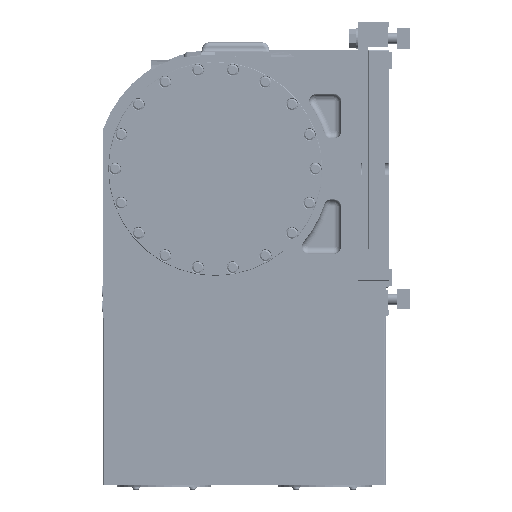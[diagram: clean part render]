
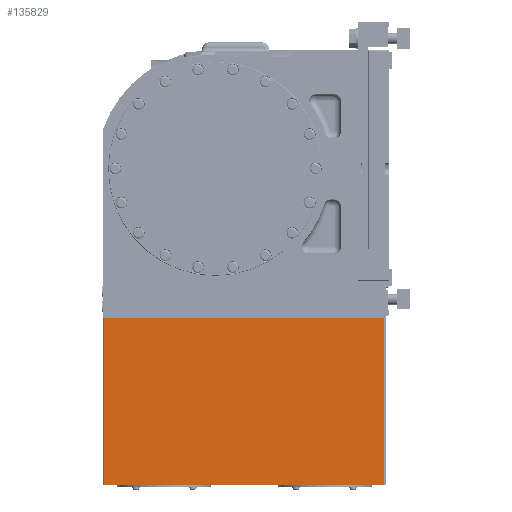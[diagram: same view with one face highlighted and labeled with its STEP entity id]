
A CAD part, left-side view. The second image highlights one B-rep face of the part: STEP entity #135829.
In plain terms, the highlighted planar face has unit normal (-1, 0, 0) as drawn and (0, 0, -1) by its records, which use the part's own axes.
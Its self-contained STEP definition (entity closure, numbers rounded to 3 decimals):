
#9509 = VERTEX_POINT ( 'NONE', #36486 ) ;
#9866 = VECTOR ( 'NONE', #182659, 1000. ) ;
#21764 = DIRECTION ( 'NONE',  ( 0., 1., 0. ) ) ;
#23145 = ORIENTED_EDGE ( 'NONE', *, *, #182110, .F. ) ;
#29911 = LINE ( 'NONE', #56879, #105749 ) ;
#34080 = CARTESIAN_POINT ( 'NONE',  ( 15., 0., -170. ) ) ;
#36486 = CARTESIAN_POINT ( 'NONE',  ( 245., 2., -170. ) ) ;
#36654 = ORIENTED_EDGE ( 'NONE', *, *, #41555, .T. ) ;
#38599 = LINE ( 'NONE', #165353, #76436 ) ;
#40418 = CARTESIAN_POINT ( 'NONE',  ( 0., 0., -170. ) ) ;
#41195 = VECTOR ( 'NONE', #21764, 1000. ) ;
#41555 = EDGE_CURVE ( 'NONE', #9509, #113326, #29911, .T. ) ;
#45659 = LINE ( 'NONE', #92861, #41195 ) ;
#48461 = DIRECTION ( 'NONE',  ( 1., 0., 0. ) ) ;
#55240 = ORIENTED_EDGE ( 'NONE', *, *, #129150, .T. ) ;
#56879 = CARTESIAN_POINT ( 'NONE',  ( 15., 2., -170. ) ) ;
#70618 = DIRECTION ( 'NONE',  ( -1., 0., 0. ) ) ;
#76436 = VECTOR ( 'NONE', #136831, 1000. ) ;
#79156 = FACE_OUTER_BOUND ( 'NONE', #85740, .T. ) ;
#85684 = LINE ( 'NONE', #40418, #9866 ) ;
#85740 = EDGE_LOOP ( 'NONE', ( #23145, #36654, #106037, #55240 ) ) ;
#90820 = PLANE ( 'NONE',  #163538 ) ;
#92861 = CARTESIAN_POINT ( 'NONE',  ( 245., 416., -170. ) ) ;
#105749 = VECTOR ( 'NONE', #70618, 1000. ) ;
#106037 = ORIENTED_EDGE ( 'NONE', *, *, #159455, .T. ) ;
#113326 = VERTEX_POINT ( 'NONE', #169272 ) ;
#128512 = CARTESIAN_POINT ( 'NONE',  ( 0., 414., -170. ) ) ;
#129150 = EDGE_CURVE ( 'NONE', #183560, #154705, #38599, .T. ) ;
#133565 = DIRECTION ( 'NONE',  ( 0., 0., 1. ) ) ;
#135829 = ADVANCED_FACE ( 'NONE', ( #79156 ), #90820, .F. ) ;
#136831 = DIRECTION ( 'NONE',  ( 1., 0., 0. ) ) ;
#146511 = CARTESIAN_POINT ( 'NONE',  ( 245., 414., -170. ) ) ;
#154705 = VERTEX_POINT ( 'NONE', #146511 ) ;
#159455 = EDGE_CURVE ( 'NONE', #113326, #183560, #85684, .T. ) ;
#163538 = AXIS2_PLACEMENT_3D ( 'NONE', #34080, #133565, #48461 ) ;
#165353 = CARTESIAN_POINT ( 'NONE',  ( 15., 414., -170. ) ) ;
#169272 = CARTESIAN_POINT ( 'NONE',  ( 0., 2., -170. ) ) ;
#182110 = EDGE_CURVE ( 'NONE', #9509, #154705, #45659, .T. ) ;
#182659 = DIRECTION ( 'NONE',  ( 0., 1., 0. ) ) ;
#183560 = VERTEX_POINT ( 'NONE', #128512 ) ;
